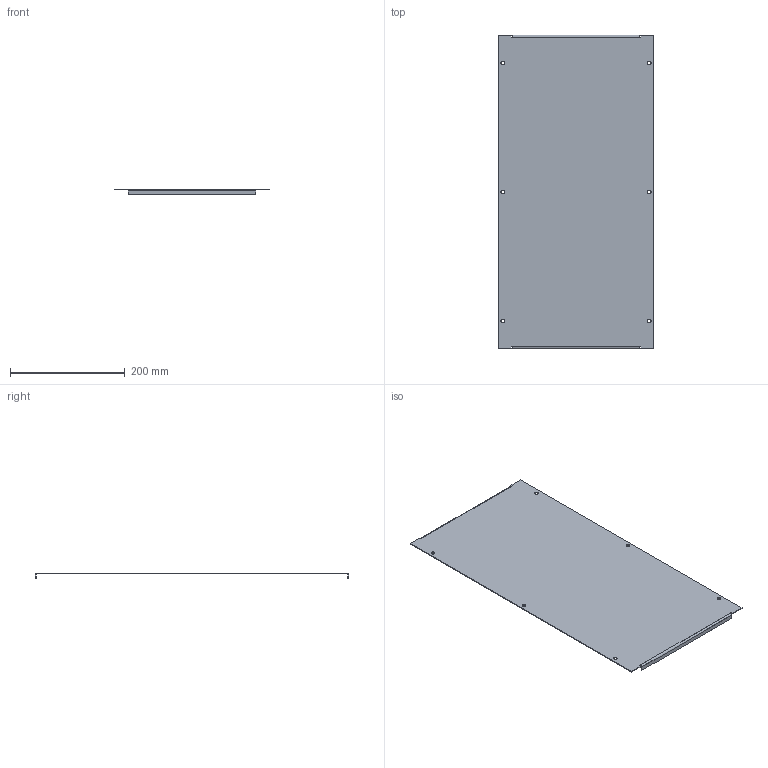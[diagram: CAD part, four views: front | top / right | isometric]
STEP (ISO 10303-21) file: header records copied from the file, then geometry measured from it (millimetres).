
FILE_DESCRIPTION(('STEP AP203'), '1');
FILE_NAME('Ïëàñòðîí ãëóõîé 550õ400 ìì OptiBox M 419420 ÊÝÀÇ', '', ('UNSPECIFIED'), ('UNSPECIFIED'), 'C3D Converter', 'C3D Toolkit', '');
FILE_SCHEMA(('CONFIG_CONTROL_DESIGN'));
Length unit declared in the file: millimetre
Bounding box: 272 x 547 x 10 mm (x, y, z)
Volume: 212678.7 mm3; surface area: 306364.1 mm2
Topology: 1 solids, 1 shells, 40 faces, 98 edges, 60 vertices
Faces by surface type: plane 30, cylinder 10
Full cylindrical faces by diameter (mm): 6.3 x6
Entity records: 1188 total; most frequent: DIRECTION 194, CARTESIAN_POINT 193, ORIENTED_EDGE 184, EDGE_CURVE 92, LINE 72, VECTOR 72, AXIS2_PLACEMENT_3D 61, VERTEX_POINT 60
